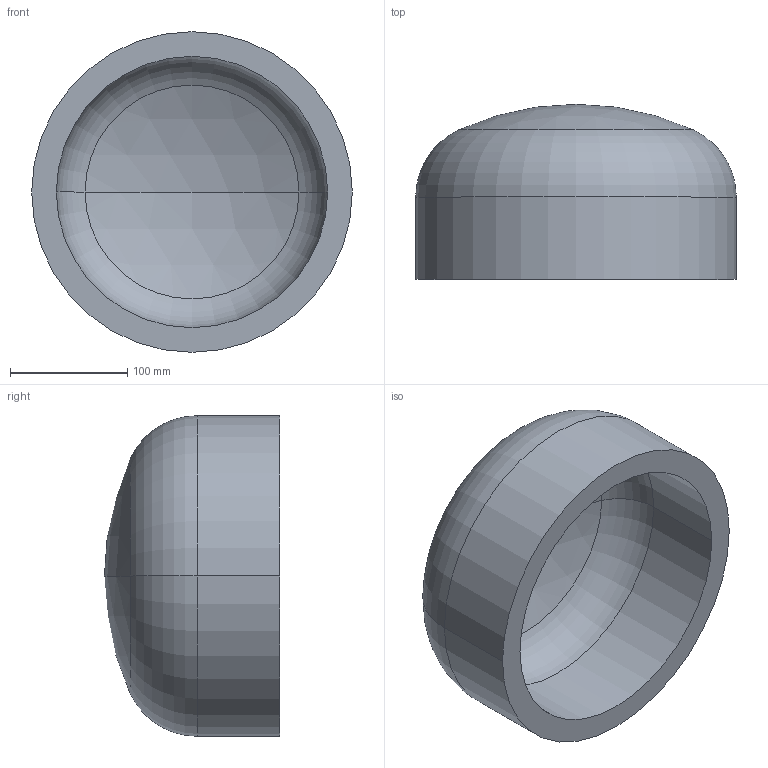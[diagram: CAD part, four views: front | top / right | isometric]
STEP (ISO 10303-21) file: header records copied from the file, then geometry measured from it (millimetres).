
FILE_DESCRIPTION (( 'STEP AP203' ), '1' );
FILE_NAME ('DIN 28013 Korbbogenform_-_Boden DIN 28013 - 273 x 70 - I - s=21.step', '2016-07-01T07:43:25', ( '' ), ( '' ), 'SwSTEP 2.0', 'SolidWorks 2013', '' );
FILE_SCHEMA (( 'CONFIG_CONTROL_DESIGN' ));
Length unit declared in the file: millimetre
Products named in the file (1): DIN 28013 Korbbogenform_-_Boden DIN 28013 - 273 x 70 - I - s=21
Bounding box: 273 x 149.08 x 273 mm (x, y, z)
Volume: 2708994.6 mm3; surface area: 275548.4 mm2
Topology: 1 solids, 1 shells, 13 faces, 24 edges, 14 vertices
Faces by surface type: torus 4, cylinder 4, sphere 4, plane 1
Entity records: 407 total; most frequent: DIRECTION 72, CARTESIAN_POINT 52, ORIENTED_EDGE 48, AXIS2_PLACEMENT_3D 34, EDGE_CURVE 24, CIRCLE 20, VERTEX_POINT 14, EDGE_LOOP 14
